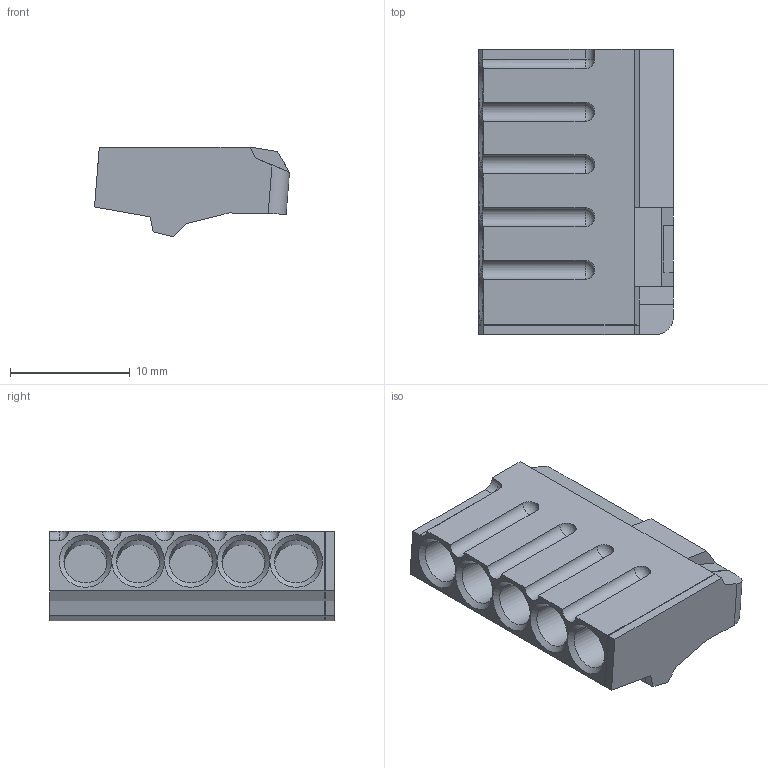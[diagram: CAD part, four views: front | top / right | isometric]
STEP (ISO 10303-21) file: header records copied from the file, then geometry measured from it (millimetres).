
FILE_DESCRIPTION(/* description */ ('Unknown'),/* implementation_level */ '2;1');
FILE_NAME(/* name */ 'ST 3505',/* time_stamp */ '2021-10-08T08:55:44+02:00',/* author */ ('Unknown'),/* organization */ ('Unknown'),/* preprocessor_version */ 'ST-DEVELOPER v16.7',/* originating_system */ 'Solid Edge',/* authorisation */ 'Unknown');
FILE_SCHEMA (('AUTOMOTIVE_DESIGN {1 0 10303 214 3 1 1}'));
Length unit declared in the file: millimetre
Products named in the file (1): ST 3505
Bounding box: 16.28 x 23.8 x 7.5 mm (x, y, z)
Volume: 1814.9 mm3; surface area: 1559.9 mm2
Topology: 1 solids, 1 shells, 80 faces, 209 edges, 121 vertices
Faces by surface type: plane 41, cylinder 25, sphere 8, cone 5, bspline 1
Full cylindrical faces by diameter (mm): 3.6 x5
Entity records: 2752 total; most frequent: DIRECTION 386, CARTESIAN_POINT 383, ORIENTED_EDGE 348, EDGE_CURVE 174, AXIS2_PLACEMENT_3D 135, LINE 116, VECTOR 116, VERTEX_POINT 107
